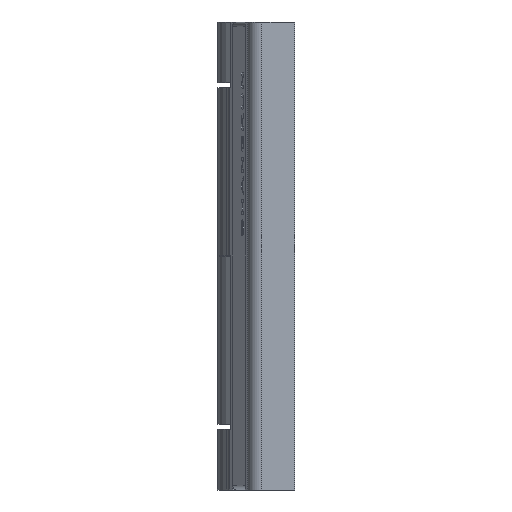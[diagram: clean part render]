
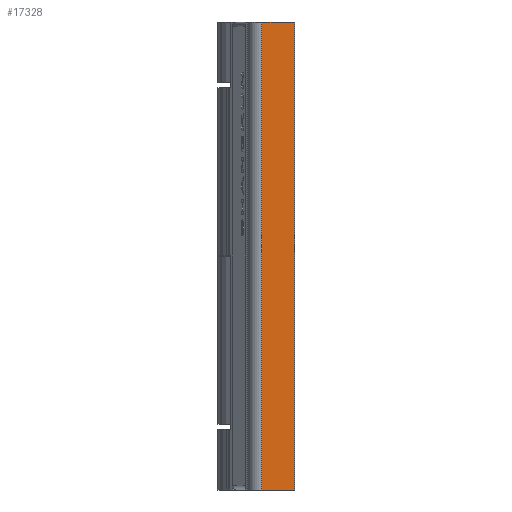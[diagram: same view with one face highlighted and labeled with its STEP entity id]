
A CAD part, left-side view. The second image highlights one B-rep face of the part: STEP entity #17328.
In plain terms, the highlighted planar face has unit normal (-1, 0, 0) as drawn and (1, 0, 0) by its records, which use the part's own axes.
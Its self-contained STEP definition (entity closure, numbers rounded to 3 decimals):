
#530 = FACE_OUTER_BOUND ( 'NONE', #5348, .T. ) ;
#877 = ORIENTED_EDGE ( 'NONE', *, *, #22511, .T. ) ;
#1716 = LINE ( 'NONE', #17768, #25305 ) ;
#1730 = CARTESIAN_POINT ( 'NONE',  ( 50., -1.486, -50. ) ) ;
#3003 = PLANE ( 'NONE',  #20238 ) ;
#3455 = VERTEX_POINT ( 'NONE', #27400 ) ;
#4925 = VECTOR ( 'NONE', #19422, 1000. ) ;
#5266 = DIRECTION ( 'NONE',  ( 0., 0., 1. ) ) ;
#5348 = EDGE_LOOP ( 'NONE', ( #5365, #12411, #15156, #877 ) ) ;
#5365 = ORIENTED_EDGE ( 'NONE', *, *, #11613, .T. ) ;
#7770 = VECTOR ( 'NONE', #23303, 1000. ) ;
#7887 = VERTEX_POINT ( 'NONE', #1730 ) ;
#7995 = EDGE_CURVE ( 'NONE', #10081, #14578, #18317, .T. ) ;
#8039 = CARTESIAN_POINT ( 'NONE',  ( 50., -8.5, 50. ) ) ;
#9561 = CARTESIAN_POINT ( 'NONE',  ( 50., -8.5, 50. ) ) ;
#10081 = VERTEX_POINT ( 'NONE', #9561 ) ;
#11613 = EDGE_CURVE ( 'NONE', #3455, #7887, #13863, .T. ) ;
#12411 = ORIENTED_EDGE ( 'NONE', *, *, #23101, .F. ) ;
#13863 = LINE ( 'NONE', #16314, #7770 ) ;
#14578 = VERTEX_POINT ( 'NONE', #26179 ) ;
#15156 = ORIENTED_EDGE ( 'NONE', *, *, #7995, .F. ) ;
#16314 = CARTESIAN_POINT ( 'NONE',  ( 50., 0., -50. ) ) ;
#16645 = CARTESIAN_POINT ( 'NONE',  ( 50., 0., 50. ) ) ;
#17328 = ADVANCED_FACE ( 'NONE', ( #530 ), #3003, .F. ) ;
#17768 = CARTESIAN_POINT ( 'NONE',  ( 50., -1.486, 50. ) ) ;
#18317 = LINE ( 'NONE', #27101, #29010 ) ;
#18949 = DIRECTION ( 'NONE',  ( -1., 0., 0. ) ) ;
#19422 = DIRECTION ( 'NONE',  ( 0., 0., -1. ) ) ;
#20238 = AXIS2_PLACEMENT_3D ( 'NONE', #16645, #18949, #5266 ) ;
#22511 = EDGE_CURVE ( 'NONE', #10081, #3455, #24600, .T. ) ;
#23101 = EDGE_CURVE ( 'NONE', #14578, #7887, #1716, .T. ) ;
#23303 = DIRECTION ( 'NONE',  ( 0., 1., 0. ) ) ;
#24600 = LINE ( 'NONE', #8039, #4925 ) ;
#25305 = VECTOR ( 'NONE', #26984, 1000. ) ;
#26179 = CARTESIAN_POINT ( 'NONE',  ( 50., -1.486, 50. ) ) ;
#26984 = DIRECTION ( 'NONE',  ( 0., 0., -1. ) ) ;
#27101 = CARTESIAN_POINT ( 'NONE',  ( 50., 0., 50. ) ) ;
#27400 = CARTESIAN_POINT ( 'NONE',  ( 50., -8.5, -50. ) ) ;
#29010 = VECTOR ( 'NONE', #29373, 1000. ) ;
#29373 = DIRECTION ( 'NONE',  ( 0., 1., 0. ) ) ;
